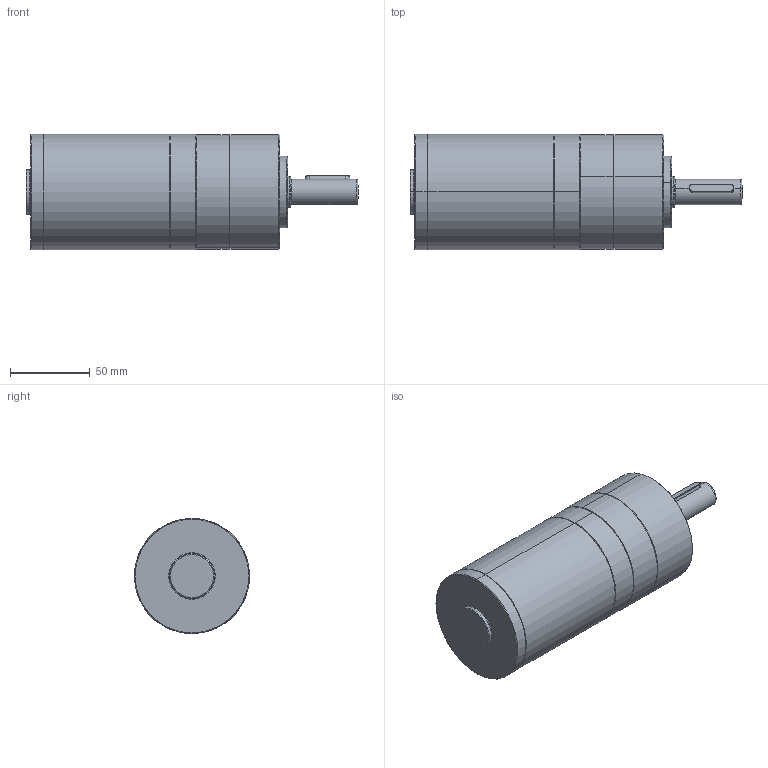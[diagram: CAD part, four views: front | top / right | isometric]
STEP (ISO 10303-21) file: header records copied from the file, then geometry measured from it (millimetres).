
FILE_DESCRIPTION (( 'STEP AP203' ), '1' );
FILE_NAME ('72BLD120W熬厒掀珨撰淕儂.STEP', '2021-07-16T04:45:25', ( '' ), ( '' ), 'SwSTEP 2.0', 'SolidWorks 2021', '' );
FILE_SCHEMA (( 'CONFIG_CONTROL_DESIGN' ));
Length unit declared in the file: millimetre
Products named in the file (3): 72PN珨撰; 72; 72BLD120W熬厒掀珨撰淕儂
Assembly tree (2 placements, depth 2):
  72BLD120W熬厒掀珨撰淕儂
    72
    72PN珨撰
Bounding box: 207.5 x 72 x 72 mm (x, y, z)
Volume: 639908.4 mm3; surface area: 57882.3 mm2
Topology: 2 solids, 2 shells, 162 faces, 353 edges, 209 vertices
Faces by surface type: cylinder 52, plane 50, cone 38, bspline 14, torus 8
Entity records: 5016 total; most frequent: CARTESIAN_POINT 1203, DIRECTION 787, ORIENTED_EDGE 686, EDGE_CURVE 343, AXIS2_PLACEMENT_3D 309, VERTEX_POINT 209, EDGE_LOOP 186, VECTOR 169
